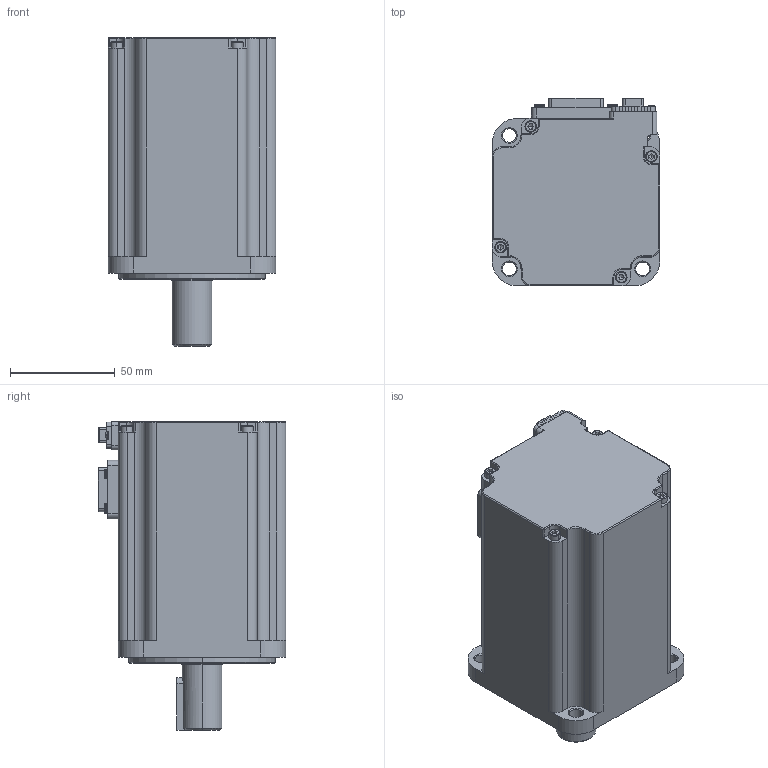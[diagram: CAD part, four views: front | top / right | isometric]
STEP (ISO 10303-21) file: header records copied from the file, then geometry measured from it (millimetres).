
FILE_DESCRIPTION (( 'STEP AP214' ), '1' );
FILE_NAME ('307090507SS£¨SMK80S-0100-30SAK-5DKA£©.STEP', '2024-03-29T12:43:51', ( 'kinavo-1' ), ( '' ), 'SwSTEP 2.0', 'SolidWorks 2023', '' );
FILE_SCHEMA (( 'AUTOMOTIVE_DESIGN' ));
Length unit declared in the file: millimetre
Products named in the file (1): 307090507SS（SMK80S-0100-30SAK-5DKA）
Bounding box: 80 x 89.6 x 147.5 mm (x, y, z)
Volume: 661783 mm3; surface area: 59539.4 mm2
Topology: 2 solids, 32 shells, 1667 faces, 4198 edges, 2625 vertices
Faces by surface type: plane 738, cylinder 610, cone 134, torus 124, bspline 34, sphere 27
Entity records: 56670 total; most frequent: CARTESIAN_POINT 16497, DIRECTION 8585, ORIENTED_EDGE 8290, EDGE_CURVE 4145, AXIS2_PLACEMENT_3D 3144, VERTEX_POINT 2617, VECTOR 2297, LINE 2297
